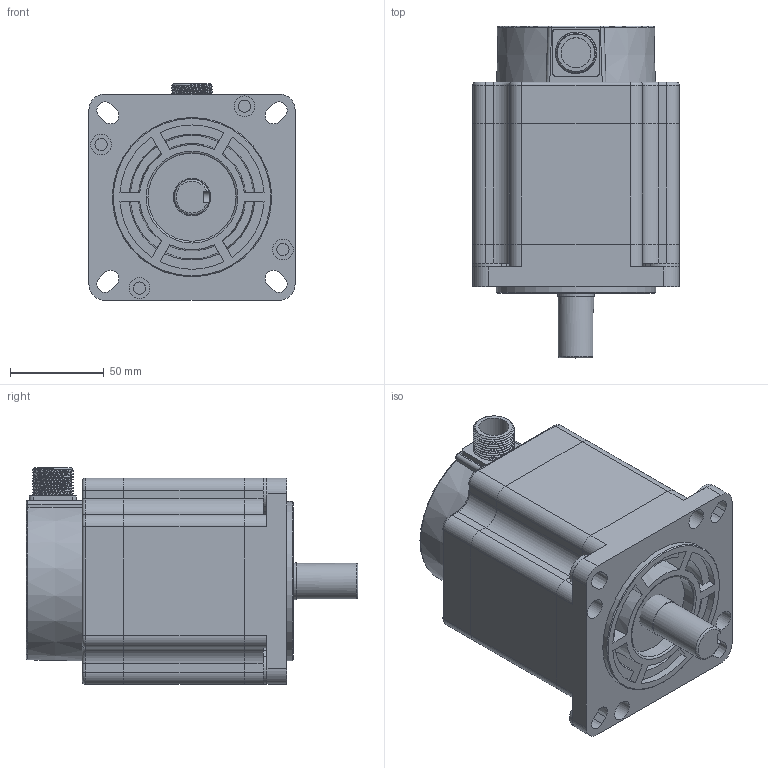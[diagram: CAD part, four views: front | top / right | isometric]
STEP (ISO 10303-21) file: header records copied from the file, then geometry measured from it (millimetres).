
FILE_DESCRIPTION(/* description */ (''),/* implementation_level */ '2;1');
FILE_NAME(/* name */ '110BYG350A(止口φ85).stp',/* time_stamp */ '2024-08-15T16:34:58+08:00',/* author */ (''),/* organization */ (''),/* preprocessor_version */ 'ST-DEVELOPER v18.1',/* originating_system */ 'SIEMENS PLM Software NX 2000',/* authorisation */ '');
FILE_SCHEMA (('AUTOMOTIVE_DESIGN { 1 0 10303 214 3 1 1 1 }'));
Length unit declared in the file: millimetre
Products named in the file (1): 110BYG350A(止口φ85)电机外形图
Bounding box: 110 x 177 x 115.5 mm (x, y, z)
Volume: 1325388.1 mm3; surface area: 144697.5 mm2
Topology: 5 solids, 5 shells, 292 faces, 733 edges, 477 vertices
Faces by surface type: plane 131, cylinder 118, cone 24, torus 15, bspline 4
Full cylindrical faces by diameter (mm): 3 x4, 6 x4, 6.5 x8, 11 x4, 16 x1, 19 x1, 19.7 x1, 20 x2, 47 x1, 85 x1
Entity records: 11042 total; most frequent: CARTESIAN_POINT 4002, DIRECTION 1508, ORIENTED_EDGE 1374, EDGE_CURVE 687, AXIS2_PLACEMENT_3D 573, VERTEX_POINT 462, EDGE_LOOP 371, LINE 362
